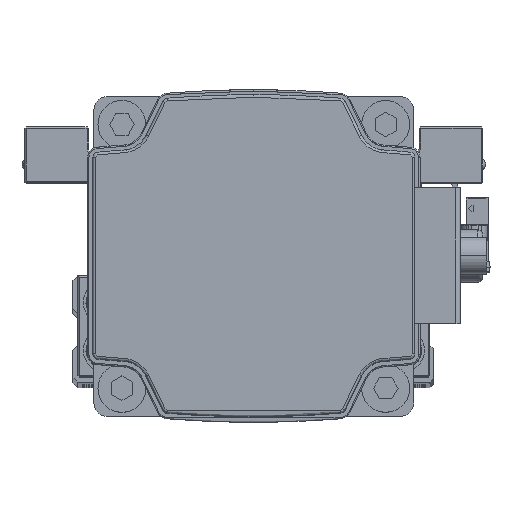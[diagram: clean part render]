
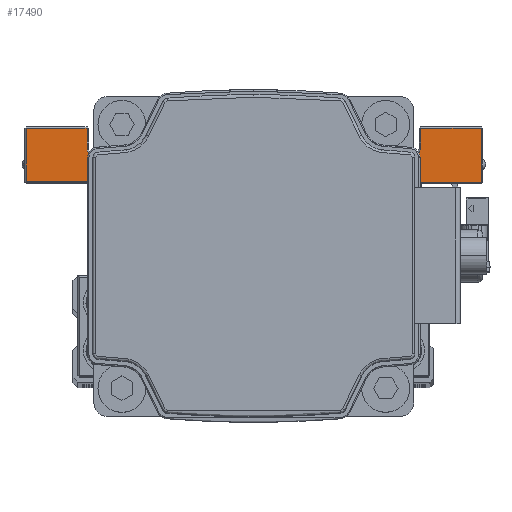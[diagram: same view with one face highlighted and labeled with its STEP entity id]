
A CAD part, top view. The second image highlights one B-rep face of the part: STEP entity #17490.
In plain terms, the highlighted planar face has unit normal (0, 0, 1) as drawn and (1, 0, 0) by its records, which use the part's own axes.
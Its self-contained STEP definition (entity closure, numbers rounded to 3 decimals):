
#99 = VECTOR ( 'NONE', #9225, 1000. ) ;
#173 = ORIENTED_EDGE ( 'NONE', *, *, #38973, .T. ) ;
#342 = VECTOR ( 'NONE', #6636, 1000. ) ;
#649 = ORIENTED_EDGE ( 'NONE', *, *, #29180, .T. ) ;
#775 = EDGE_CURVE ( 'NONE', #29791, #9162, #26720, .T. ) ;
#1690 = DIRECTION ( 'NONE',  ( -1., 0., 0. ) ) ;
#2603 = CARTESIAN_POINT ( 'NONE',  ( 45., 7.5, -31.3 ) ) ;
#2961 = CARTESIAN_POINT ( 'NONE',  ( 45., 17.7, -31.3 ) ) ;
#3296 = CARTESIAN_POINT ( 'NONE',  ( 45., 7.5, 19.7 ) ) ;
#3799 = CARTESIAN_POINT ( 'NONE',  ( 45., 17.7, 42.7 ) ) ;
#4508 = CARTESIAN_POINT ( 'NONE',  ( 45., 7.5, 42.7 ) ) ;
#4650 = ORIENTED_EDGE ( 'NONE', *, *, #33200, .T. ) ;
#4761 = ORIENTED_EDGE ( 'NONE', *, *, #24116, .T. ) ;
#4869 = FACE_OUTER_BOUND ( 'NONE', #27273, .T. ) ;
#5789 = CARTESIAN_POINT ( 'NONE',  ( 45., 7.5, -42.7 ) ) ;
#5790 = CARTESIAN_POINT ( 'NONE',  ( 45., 17.7, -42.7 ) ) ;
#6078 = DIRECTION ( 'NONE',  ( 0., 0., 1. ) ) ;
#6129 = VERTEX_POINT ( 'NONE', #3799 ) ;
#6572 = ORIENTED_EDGE ( 'NONE', *, *, #23990, .T. ) ;
#6636 = DIRECTION ( 'NONE',  ( 0., 0., -1. ) ) ;
#6714 = CARTESIAN_POINT ( 'NONE',  ( 45., 7.5, 31.3 ) ) ;
#6793 = CARTESIAN_POINT ( 'NONE',  ( 45., 12.7, 30. ) ) ;
#7047 = EDGE_CURVE ( 'NONE', #19836, #41320, #13646, .T. ) ;
#7264 = VECTOR ( 'NONE', #15576, 1000. ) ;
#7426 = VERTEX_POINT ( 'NONE', #27143 ) ;
#7432 = LINE ( 'NONE', #20396, #17067 ) ;
#7786 = LINE ( 'NONE', #20750, #39921 ) ;
#7916 = LINE ( 'NONE', #20883, #31414 ) ;
#8609 = CARTESIAN_POINT ( 'NONE',  ( 45., 14., 30. ) ) ;
#8979 = AXIS2_PLACEMENT_3D ( 'NONE', #30784, #1690, #14674 ) ;
#9086 = ORIENTED_EDGE ( 'NONE', *, *, #14363, .T. ) ;
#9162 = VERTEX_POINT ( 'NONE', #34199 ) ;
#9225 = DIRECTION ( 'NONE',  ( 0., 1., 0. ) ) ;
#9756 = DIRECTION ( 'NONE',  ( 0., 0., -1. ) ) ;
#10672 = DIRECTION ( 'NONE',  ( 0., 0., 1. ) ) ;
#11052 = ORIENTED_EDGE ( 'NONE', *, *, #775, .T. ) ;
#11261 = DIRECTION ( 'NONE',  ( -1., 0., 0. ) ) ;
#11477 = ORIENTED_EDGE ( 'NONE', *, *, #7047, .T. ) ;
#12092 = VERTEX_POINT ( 'NONE', #21069 ) ;
#12400 = CARTESIAN_POINT ( 'NONE',  ( 45., 7.8, 42.7 ) ) ;
#13077 = EDGE_CURVE ( 'NONE', #36716, #6129, #7786, .T. ) ;
#13635 = CARTESIAN_POINT ( 'NONE',  ( 45., 14., -31.3 ) ) ;
#13646 = CIRCLE ( 'NONE', #37357, 1.3 ) ;
#13881 = CARTESIAN_POINT ( 'NONE',  ( 45., -8.2, -19.7 ) ) ;
#13917 = EDGE_CURVE ( 'NONE', #19682, #40093, #26800, .T. ) ;
#13973 = EDGE_CURVE ( 'NONE', #6129, #26578, #33598, .T. ) ;
#14363 = EDGE_CURVE ( 'NONE', #18201, #7426, #7432, .T. ) ;
#14674 = DIRECTION ( 'NONE',  ( 0., 0., 1. ) ) ;
#15005 = ORIENTED_EDGE ( 'NONE', *, *, #15484, .T. ) ;
#15484 = EDGE_CURVE ( 'NONE', #26578, #12092, #22763, .T. ) ;
#15576 = DIRECTION ( 'NONE',  ( 0., -1., 0. ) ) ;
#16272 = DIRECTION ( 'NONE',  ( 0., -1., 0. ) ) ;
#17067 = VECTOR ( 'NONE', #33342, 1000. ) ;
#17482 = DIRECTION ( 'NONE',  ( 0., -1., 0. ) ) ;
#17490 = ADVANCED_FACE ( 'NONE', ( #4869 ), #17841, .F. ) ;
#17841 = PLANE ( 'NONE',  #8979 ) ;
#18201 = VERTEX_POINT ( 'NONE', #13881 ) ;
#18249 = EDGE_CURVE ( 'NONE', #7426, #41453, #7916, .T. ) ;
#18578 = CARTESIAN_POINT ( 'NONE',  ( 45., 17.7, 31.3 ) ) ;
#19468 = ORIENTED_EDGE ( 'NONE', *, *, #13973, .T. ) ;
#19534 = ORIENTED_EDGE ( 'NONE', *, *, #18249, .T. ) ;
#19675 = DIRECTION ( 'NONE',  ( 0., 1., 0. ) ) ;
#19682 = VERTEX_POINT ( 'NONE', #5790 ) ;
#19836 = VERTEX_POINT ( 'NONE', #13635 ) ;
#19991 = VECTOR ( 'NONE', #6078, 1000. ) ;
#20396 = CARTESIAN_POINT ( 'NONE',  ( 45., 7.5, -19.7 ) ) ;
#20591 = ORIENTED_EDGE ( 'NONE', *, *, #13917, .T. ) ;
#20750 = CARTESIAN_POINT ( 'NONE',  ( 45., 17.7, -20. ) ) ;
#20883 = CARTESIAN_POINT ( 'NONE',  ( 45., 7.5, 43. ) ) ;
#21069 = CARTESIAN_POINT ( 'NONE',  ( 45., 7.8, 19.7 ) ) ;
#21169 = ORIENTED_EDGE ( 'NONE', *, *, #30674, .T. ) ;
#21574 = DIRECTION ( 'NONE',  ( -1., 0., 0. ) ) ;
#22222 = LINE ( 'NONE', #35179, #19991 ) ;
#22248 = VECTOR ( 'NONE', #9756, 1000. ) ;
#22763 = LINE ( 'NONE', #35727, #342 ) ;
#23990 = EDGE_CURVE ( 'NONE', #41320, #29791, #22222, .T. ) ;
#24093 = VERTEX_POINT ( 'NONE', #32412 ) ;
#24116 = EDGE_CURVE ( 'NONE', #9162, #36716, #35810, .T. ) ;
#24230 = DIRECTION ( 'NONE',  ( 0., 0., 1. ) ) ;
#25363 = LINE ( 'NONE', #38309, #99 ) ;
#25898 = LINE ( 'NONE', #38837, #22248 ) ;
#26536 = ORIENTED_EDGE ( 'NONE', *, *, #13077, .T. ) ;
#26578 = VERTEX_POINT ( 'NONE', #12400 ) ;
#26720 = CIRCLE ( 'NONE', #32181, 1.3 ) ;
#26749 = VECTOR ( 'NONE', #19675, 1000. ) ;
#26800 = LINE ( 'NONE', #39752, #35168 ) ;
#27143 = CARTESIAN_POINT ( 'NONE',  ( 45., 7.5, -19.7 ) ) ;
#27273 = EDGE_LOOP ( 'NONE', ( #9086, #19534, #4650, #20591, #649, #11477, #6572, #11052, #4761, #26536, #19468, #15005, #21169, #173 ) ) ;
#27293 = VECTOR ( 'NONE', #17482, 1000. ) ;
#29180 = EDGE_CURVE ( 'NONE', #40093, #19836, #31701, .T. ) ;
#29764 = VECTOR ( 'NONE', #16272, 1000. ) ;
#29791 = VERTEX_POINT ( 'NONE', #6793 ) ;
#30674 = EDGE_CURVE ( 'NONE', #12092, #24093, #32396, .T. ) ;
#30784 = CARTESIAN_POINT ( 'NONE',  ( 45., 7.5, -20. ) ) ;
#31414 = VECTOR ( 'NONE', #33825, 1000. ) ;
#31701 = LINE ( 'NONE', #2603, #7264 ) ;
#32181 = AXIS2_PLACEMENT_3D ( 'NONE', #8609, #21574, #34525 ) ;
#32396 = LINE ( 'NONE', #3296, #29764 ) ;
#32412 = CARTESIAN_POINT ( 'NONE',  ( 45., -8.2, 19.7 ) ) ;
#33200 = EDGE_CURVE ( 'NONE', #41453, #19682, #25363, .T. ) ;
#33342 = DIRECTION ( 'NONE',  ( 0., 1., 0. ) ) ;
#33598 = LINE ( 'NONE', #4508, #27293 ) ;
#33619 = CARTESIAN_POINT ( 'NONE',  ( 45., 12.7, -30. ) ) ;
#33702 = DIRECTION ( 'NONE',  ( 0., 0., 1. ) ) ;
#33825 = DIRECTION ( 'NONE',  ( 0., 0., -1. ) ) ;
#34199 = CARTESIAN_POINT ( 'NONE',  ( 45., 14., 31.3 ) ) ;
#34525 = DIRECTION ( 'NONE',  ( 0., 0., 1. ) ) ;
#35168 = VECTOR ( 'NONE', #10672, 1000. ) ;
#35179 = CARTESIAN_POINT ( 'NONE',  ( 45., 12.7, 30. ) ) ;
#35727 = CARTESIAN_POINT ( 'NONE',  ( 45., 7.8, 20. ) ) ;
#35810 = LINE ( 'NONE', #6714, #26749 ) ;
#36716 = VERTEX_POINT ( 'NONE', #18578 ) ;
#37357 = AXIS2_PLACEMENT_3D ( 'NONE', #40348, #11261, #24230 ) ;
#38309 = CARTESIAN_POINT ( 'NONE',  ( 45., 7.5, -42.7 ) ) ;
#38837 = CARTESIAN_POINT ( 'NONE',  ( 45., -8.2, -20. ) ) ;
#38973 = EDGE_CURVE ( 'NONE', #24093, #18201, #25898, .T. ) ;
#39752 = CARTESIAN_POINT ( 'NONE',  ( 45., 17.7, -20. ) ) ;
#39921 = VECTOR ( 'NONE', #33702, 1000. ) ;
#40093 = VERTEX_POINT ( 'NONE', #2961 ) ;
#40348 = CARTESIAN_POINT ( 'NONE',  ( 45., 14., -30. ) ) ;
#41320 = VERTEX_POINT ( 'NONE', #33619 ) ;
#41453 = VERTEX_POINT ( 'NONE', #5789 ) ;
